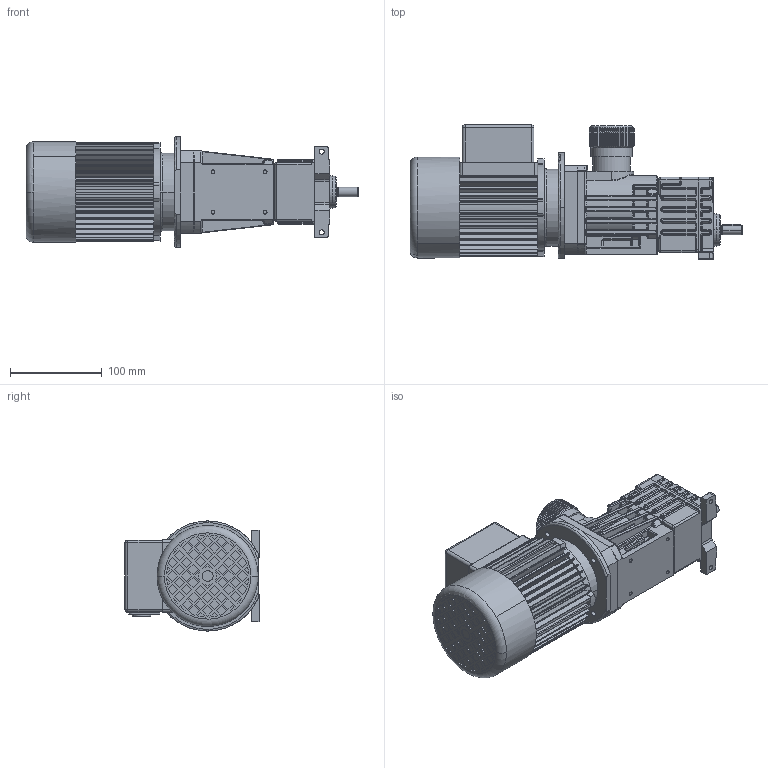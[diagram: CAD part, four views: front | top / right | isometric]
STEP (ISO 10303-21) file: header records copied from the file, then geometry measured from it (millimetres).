
FILE_DESCRIPTION(('CoCreate Modeling STEP Export'),'2;1');
FILE_NAME('K23_K27_ig_alle_BF_B14_Standardstelleinrichtung_180W_Motor.stp','2014-12-03T15:58:48',(''),(''),'CoCreate Modeling STEP processor for AP214 (Solid Model)','CoCreate Modeling 16.00C 25-Feb-2009 (C) Parametric Technology GmbH','');
FILE_SCHEMA(('AUTOMOTIVE_DESIGN { 1 0 10303 214 1 1 1 1 }'));
Products named in the file (3): K23_K27_ig_alle_BF_B14_Standardstelleinrichtung; 180W_Motor.01; K23_K27_ig_alle_BF_B14_Standardstelleinrichtung_180W_Motor
Assembly tree (2 placements, depth 2):
  K23_K27_ig_alle_BF_B14_Standardstelleinrichtung_180W_Motor
    180W_Motor.01
    K23_K27_ig_alle_BF_B14_Standardstelleinrichtung
Bounding box: 361.61 x 146.03 x 120 mm (x, y, z)
Volume: 2673010.9 mm3; surface area: 251323.3 mm2
Topology: 2 solids, 7 shells, 2605 faces, 6532 edges, 3938 vertices
Faces by surface type: plane 948, cylinder 819, bspline 613, torus 98, sphere 63, cone 42, extrusion 22
Entity records: 155107 total; most frequent: CARTESIAN_POINT 88699, ORIENTED_EDGE 12838, DIRECTION 8023, EDGE_CURVE 6419, VERTEX_POINT 3938, EDGE_LOOP 2727, VECTOR 2697, LINE 2675
